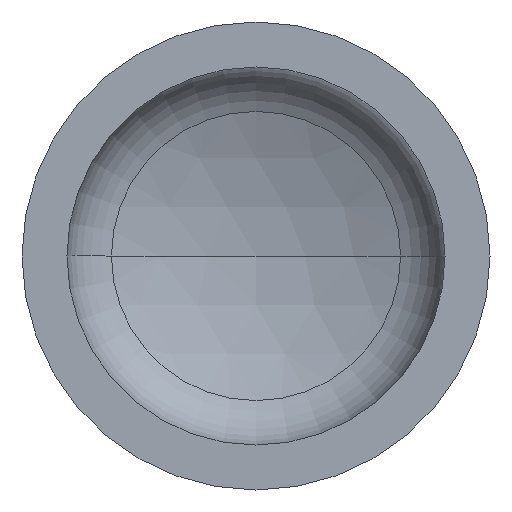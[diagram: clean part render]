
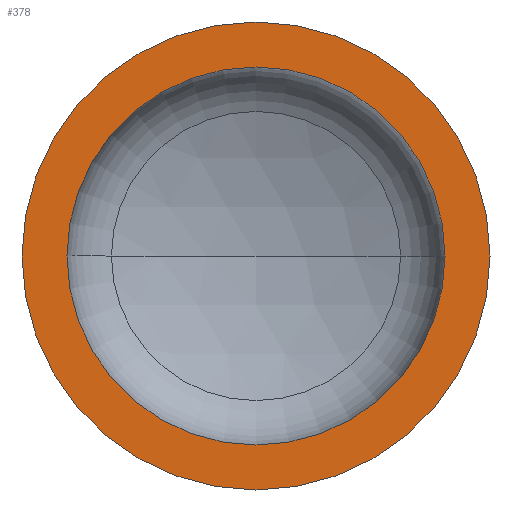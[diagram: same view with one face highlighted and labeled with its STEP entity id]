
A CAD part, front view. The second image highlights one B-rep face of the part: STEP entity #378.
In plain terms, the highlighted planar face has unit normal (0, -1, 0).
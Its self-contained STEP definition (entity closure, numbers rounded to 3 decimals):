
#1 = AXIS2_PLACEMENT_3D ( 'NONE', #118, #266, #2 ) ;
#2 = DIRECTION ( 'NONE',  ( -1., 0., 0. ) ) ;
#3 = AXIS2_PLACEMENT_3D ( 'NONE', #193, #351, #219 ) ;
#21 = AXIS2_PLACEMENT_3D ( 'NONE', #263, #411, #290 ) ;
#22 = ORIENTED_EDGE ( 'NONE', *, *, #383, .T. ) ;
#38 = VERTEX_POINT ( 'NONE', #121 ) ;
#52 = VERTEX_POINT ( 'NONE', #267 ) ;
#66 = ORIENTED_EDGE ( 'NONE', *, *, #100, .T. ) ;
#71 = ORIENTED_EDGE ( 'NONE', *, *, #101, .F. ) ;
#79 = AXIS2_PLACEMENT_3D ( 'NONE', #196, #147, #145 ) ;
#80 = AXIS2_PLACEMENT_3D ( 'NONE', #184, #182, #177 ) ;
#90 = EDGE_LOOP ( 'NONE', ( #22, #66 ) ) ;
#100 = EDGE_CURVE ( 'NONE', #52, #38, #209, .T. ) ;
#101 = EDGE_CURVE ( 'NONE', #285, #124, #372, .T. ) ;
#103 = FACE_OUTER_BOUND ( 'NONE', #90, .T. ) ;
#118 = CARTESIAN_POINT ( 'NONE',  ( -500., 0., 0. ) ) ;
#121 = CARTESIAN_POINT ( 'NONE',  ( 500., 0., 0. ) ) ;
#124 = VERTEX_POINT ( 'NONE', #136 ) ;
#125 = EDGE_LOOP ( 'NONE', ( #71, #128 ) ) ;
#128 = ORIENTED_EDGE ( 'NONE', *, *, #361, .F. ) ;
#136 = CARTESIAN_POINT ( 'NONE',  ( -404., 0., 0. ) ) ;
#145 = DIRECTION ( 'NONE',  ( 1., 0., 0. ) ) ;
#147 = DIRECTION ( 'NONE',  ( 0., -1., 0. ) ) ;
#177 = DIRECTION ( 'NONE',  ( 1., 0., 0. ) ) ;
#178 = CARTESIAN_POINT ( 'NONE',  ( 404., 0., 0. ) ) ;
#182 = DIRECTION ( 'NONE',  ( 0., -1., 0. ) ) ;
#184 = CARTESIAN_POINT ( 'NONE',  ( 0., 0., 0. ) ) ;
#193 = CARTESIAN_POINT ( 'NONE',  ( 0., 0., 0. ) ) ;
#196 = CARTESIAN_POINT ( 'NONE',  ( 0., 0., 0. ) ) ;
#209 = CIRCLE ( 'NONE', #80, 500. ) ;
#219 = DIRECTION ( 'NONE',  ( 1., 0., 0. ) ) ;
#263 = CARTESIAN_POINT ( 'NONE',  ( 0., 0., 0. ) ) ;
#266 = DIRECTION ( 'NONE',  ( 0., 1., 0. ) ) ;
#267 = CARTESIAN_POINT ( 'NONE',  ( -500., 0., 0. ) ) ;
#280 = CIRCLE ( 'NONE', #21, 404. ) ;
#285 = VERTEX_POINT ( 'NONE', #178 ) ;
#290 = DIRECTION ( 'NONE',  ( 1., 0., 0. ) ) ;
#351 = DIRECTION ( 'NONE',  ( 0., -1., 0. ) ) ;
#361 = EDGE_CURVE ( 'NONE', #124, #285, #280, .T. ) ;
#368 = PLANE ( 'NONE',  #1 ) ;
#372 = CIRCLE ( 'NONE', #79, 404. ) ;
#376 = CIRCLE ( 'NONE', #3, 500. ) ;
#378 = ADVANCED_FACE ( 'NONE', ( #381, #103 ), #368, .F. ) ;
#381 = FACE_BOUND ( 'NONE', #125, .T. ) ;
#383 = EDGE_CURVE ( 'NONE', #38, #52, #376, .T. ) ;
#411 = DIRECTION ( 'NONE',  ( 0., -1., 0. ) ) ;
